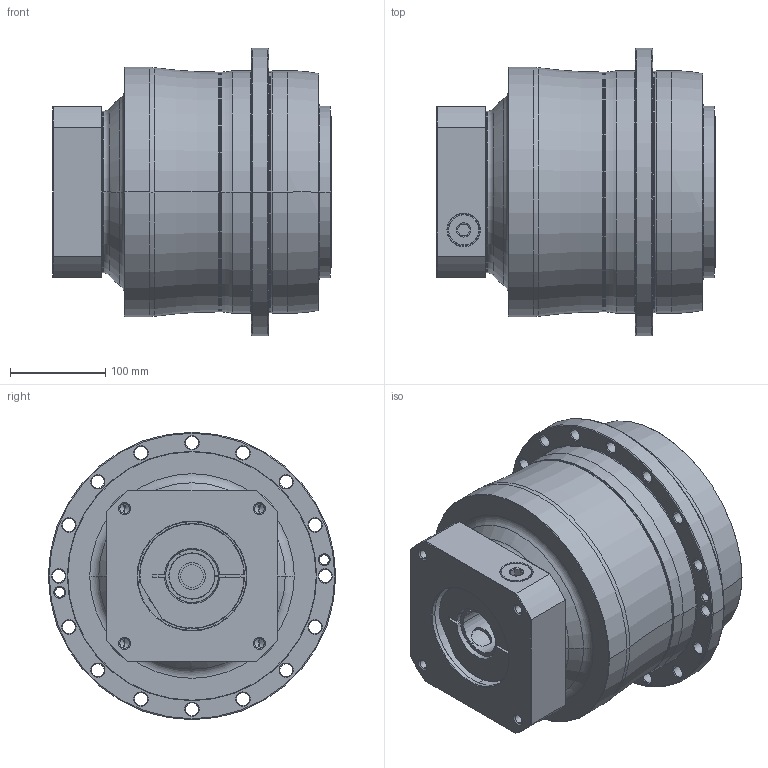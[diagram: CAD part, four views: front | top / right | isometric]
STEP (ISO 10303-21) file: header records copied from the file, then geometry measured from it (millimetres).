
FILE_DESCRIPTION((''),'2;1');
FILE_NAME('AH255_2ST_48-P0409B00101_ASM','2016-08-16T',('d01943'),(''),'PRO/ENGINEER BY PARAMETRIC TECHNOLOGY CORPORATION, 2008410','PRO/ENGINEER BY PARAMETRIC TECHNOLOGY CORPORATION, 2008410','');
FILE_SCHEMA(('CONFIG_CONTROL_DESIGN'));
Length unit declared in the file: millimetre
Products named in the file (8): P0278700003; P0359700003; P1317700401; P0409B00101; P0503B00016; P0912604001; 21711426021; AH255_2ST_48-P0409B00101_ASM
Assembly tree (7 placements, depth 2):
  AH255_2ST_48-P0409B00101_ASM
    P0278700003
    P0359700003
    P1317700401
    P0409B00101
    P0503B00016
    P0912604001
    21711426021
Bounding box: 293 x 302 x 302 mm (x, y, z)
Volume: 12215340.8 mm3; surface area: 801992.9 mm2
Topology: 8 solids, 8 shells, 586 faces, 1355 edges, 791 vertices
Faces by surface type: cylinder 220, cone 192, plane 96, torus 62, bspline 16
Entity records: 21285 total; most frequent: CARTESIAN_POINT 7687, DIRECTION 3081, ORIENTED_EDGE 2618, EDGE_CURVE 1309, AXIS2_PLACEMENT_3D 1299, VERTEX_POINT 791, CIRCLE 714, EDGE_LOOP 688
